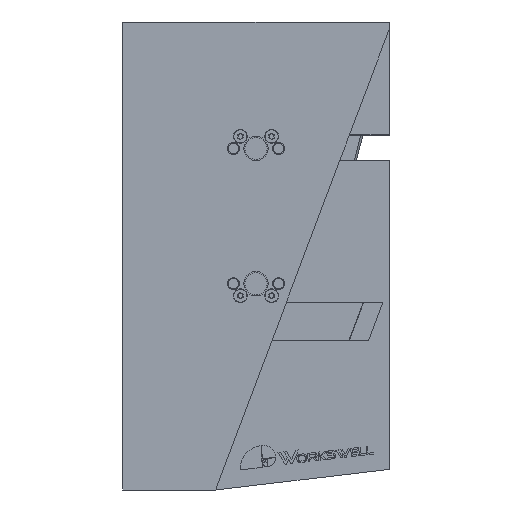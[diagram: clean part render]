
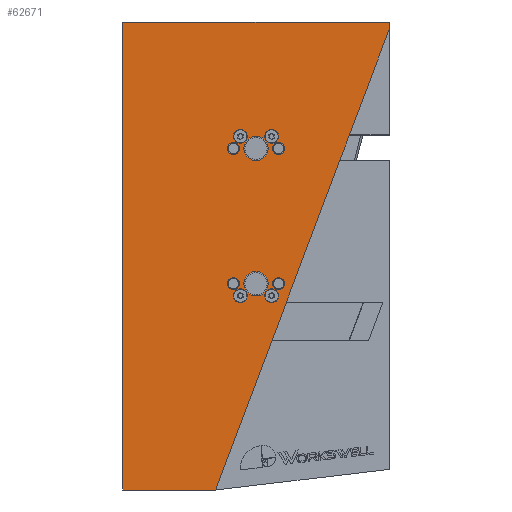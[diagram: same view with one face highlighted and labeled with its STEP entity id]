
A CAD part, top view. The second image highlights one B-rep face of the part: STEP entity #62671.
In plain terms, the highlighted planar face has unit normal (0, 0, 1).
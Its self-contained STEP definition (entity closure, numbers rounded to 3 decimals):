
#3052=CIRCLE('',#66478,2.);
#3053=CIRCLE('',#66479,2.);
#3054=CIRCLE('',#66480,3.5);
#3055=CIRCLE('',#66481,1.7);
#3056=CIRCLE('',#66482,1.7);
#3057=CIRCLE('',#66483,2.);
#3058=CIRCLE('',#66484,3.5);
#3059=CIRCLE('',#66485,1.7);
#3060=CIRCLE('',#66486,1.7);
#3061=CIRCLE('',#66487,2.);
#4442=FACE_BOUND('',#10087,.T.);
#4443=FACE_BOUND('',#10088,.T.);
#4444=FACE_BOUND('',#10089,.T.);
#4445=FACE_BOUND('',#10090,.T.);
#4446=FACE_BOUND('',#10091,.T.);
#4447=FACE_BOUND('',#10092,.T.);
#4448=FACE_BOUND('',#10093,.T.);
#4449=FACE_BOUND('',#10094,.T.);
#4450=FACE_BOUND('',#10095,.T.);
#4451=FACE_BOUND('',#10096,.T.);
#6472=FACE_OUTER_BOUND('',#10086,.T.);
#10086=EDGE_LOOP('',(#46497,#46498,#46499,#46500,#46501,#46502,#46503,#46504,
#46505));
#10087=EDGE_LOOP('',(#46506));
#10088=EDGE_LOOP('',(#46507));
#10089=EDGE_LOOP('',(#46508));
#10090=EDGE_LOOP('',(#46509));
#10091=EDGE_LOOP('',(#46510));
#10092=EDGE_LOOP('',(#46511));
#10093=EDGE_LOOP('',(#46512));
#10094=EDGE_LOOP('',(#46513));
#10095=EDGE_LOOP('',(#46514));
#10096=EDGE_LOOP('',(#46515));
#14875=LINE('',#87750,#21251);
#15850=LINE('',#91469,#22226);
#15851=LINE('',#91471,#22227);
#15852=LINE('',#91473,#22228);
#15853=LINE('',#91475,#22229);
#15854=LINE('',#91477,#22230);
#15855=LINE('',#91479,#22231);
#15856=LINE('',#91481,#22232);
#15857=LINE('',#91482,#22233);
#21251=VECTOR('',#70977,1.95);
#22226=VECTOR('',#73502,32.647);
#22227=VECTOR('',#73503,77.);
#22228=VECTOR('',#73504,135.045);
#22229=VECTOR('',#73505,26.848);
#22230=VECTOR('',#73506,46.213);
#22231=VECTOR('',#73507,11.755);
#22232=VECTOR('',#73508,43.6);
#22233=VECTOR('',#73509,8.015);
#27704=VERTEX_POINT('',#87738);
#27709=VERTEX_POINT('',#87748);
#28702=VERTEX_POINT('',#91468);
#28703=VERTEX_POINT('',#91470);
#28704=VERTEX_POINT('',#91472);
#28705=VERTEX_POINT('',#91474);
#28706=VERTEX_POINT('',#91476);
#28707=VERTEX_POINT('',#91478);
#28708=VERTEX_POINT('',#91480);
#28709=VERTEX_POINT('',#91483);
#28710=VERTEX_POINT('',#91485);
#28711=VERTEX_POINT('',#91487);
#28712=VERTEX_POINT('',#91489);
#28713=VERTEX_POINT('',#91491);
#28714=VERTEX_POINT('',#91493);
#28715=VERTEX_POINT('',#91495);
#28716=VERTEX_POINT('',#91497);
#28717=VERTEX_POINT('',#91499);
#28718=VERTEX_POINT('',#91501);
#34039=EDGE_CURVE('',#27709,#27704,#14875,.T.);
#35440=EDGE_CURVE('',#27704,#28702,#15850,.T.);
#35441=EDGE_CURVE('',#28703,#27709,#15851,.T.);
#35442=EDGE_CURVE('',#28703,#28704,#15852,.T.);
#35443=EDGE_CURVE('',#28704,#28705,#15853,.T.);
#35444=EDGE_CURVE('',#28706,#28705,#15854,.T.);
#35445=EDGE_CURVE('',#28707,#28706,#15855,.T.);
#35446=EDGE_CURVE('',#28708,#28707,#15856,.T.);
#35447=EDGE_CURVE('',#28702,#28708,#15857,.T.);
#35448=EDGE_CURVE('',#28709,#28709,#3052,.T.);
#35449=EDGE_CURVE('',#28710,#28710,#3053,.T.);
#35450=EDGE_CURVE('',#28711,#28711,#3054,.T.);
#35451=EDGE_CURVE('',#28712,#28712,#3055,.T.);
#35452=EDGE_CURVE('',#28713,#28713,#3056,.T.);
#35453=EDGE_CURVE('',#28714,#28714,#3057,.T.);
#35454=EDGE_CURVE('',#28715,#28715,#3058,.T.);
#35455=EDGE_CURVE('',#28716,#28716,#3059,.T.);
#35456=EDGE_CURVE('',#28717,#28717,#3060,.T.);
#35457=EDGE_CURVE('',#28718,#28718,#3061,.T.);
#46497=ORIENTED_EDGE('',*,*,#35440,.F.);
#46498=ORIENTED_EDGE('',*,*,#34039,.F.);
#46499=ORIENTED_EDGE('',*,*,#35441,.F.);
#46500=ORIENTED_EDGE('',*,*,#35442,.T.);
#46501=ORIENTED_EDGE('',*,*,#35443,.T.);
#46502=ORIENTED_EDGE('',*,*,#35444,.F.);
#46503=ORIENTED_EDGE('',*,*,#35445,.F.);
#46504=ORIENTED_EDGE('',*,*,#35446,.F.);
#46505=ORIENTED_EDGE('',*,*,#35447,.F.);
#46506=ORIENTED_EDGE('',*,*,#35448,.F.);
#46507=ORIENTED_EDGE('',*,*,#35449,.F.);
#46508=ORIENTED_EDGE('',*,*,#35450,.T.);
#46509=ORIENTED_EDGE('',*,*,#35451,.T.);
#46510=ORIENTED_EDGE('',*,*,#35452,.T.);
#46511=ORIENTED_EDGE('',*,*,#35453,.F.);
#46512=ORIENTED_EDGE('',*,*,#35454,.T.);
#46513=ORIENTED_EDGE('',*,*,#35455,.T.);
#46514=ORIENTED_EDGE('',*,*,#35456,.T.);
#46515=ORIENTED_EDGE('',*,*,#35457,.F.);
#60015=PLANE('',#66477);
#62671=ADVANCED_FACE('',(#6472,#4442,#4443,#4444,#4445,#4446,#4447,#4448,
#4449,#4450,#4451),#60015,.T.);
#66477=AXIS2_PLACEMENT_3D('',#91467,#73500,#73501);
#66478=AXIS2_PLACEMENT_3D('',#91484,#73510,#73511);
#66479=AXIS2_PLACEMENT_3D('',#91486,#73512,#73513);
#66480=AXIS2_PLACEMENT_3D('',#91488,#73514,#73515);
#66481=AXIS2_PLACEMENT_3D('',#91490,#73516,#73517);
#66482=AXIS2_PLACEMENT_3D('',#91492,#73518,#73519);
#66483=AXIS2_PLACEMENT_3D('',#91494,#73520,#73521);
#66484=AXIS2_PLACEMENT_3D('',#91496,#73522,#73523);
#66485=AXIS2_PLACEMENT_3D('',#91498,#73524,#73525);
#66486=AXIS2_PLACEMENT_3D('',#91500,#73526,#73527);
#66487=AXIS2_PLACEMENT_3D('',#91502,#73528,#73529);
#70977=DIRECTION('',(0.,-1.,0.));
#73500=DIRECTION('center_axis',(0.,0.,1.));
#73501=DIRECTION('ref_axis',(0.,-1.,0.));
#73502=DIRECTION('',(-0.353,-0.936,0.));
#73503=DIRECTION('',(1.,0.,0.));
#73504=DIRECTION('',(0.,-1.,0.));
#73505=DIRECTION('',(1.,0.,0.));
#73506=DIRECTION('',(-0.353,-0.936,0.));
#73507=DIRECTION('',(-0.353,-0.936,0.));
#73508=DIRECTION('',(-0.353,-0.936,0.));
#73509=DIRECTION('',(-0.353,-0.936,0.));
#73510=DIRECTION('center_axis',(0.,0.,1.));
#73511=DIRECTION('ref_axis',(-1.,0.,0.));
#73512=DIRECTION('center_axis',(0.,0.,1.));
#73513=DIRECTION('ref_axis',(-1.,0.,0.));
#73514=DIRECTION('center_axis',(0.,0.,-1.));
#73515=DIRECTION('ref_axis',(-1.,0.,0.));
#73516=DIRECTION('center_axis',(0.,0.,-1.));
#73517=DIRECTION('ref_axis',(-1.,0.,0.));
#73518=DIRECTION('center_axis',(0.,0.,-1.));
#73519=DIRECTION('ref_axis',(-1.,0.,0.));
#73520=DIRECTION('center_axis',(0.,0.,1.));
#73521=DIRECTION('ref_axis',(-1.,0.,0.));
#73522=DIRECTION('center_axis',(0.,0.,-1.));
#73523=DIRECTION('ref_axis',(-1.,0.,0.));
#73524=DIRECTION('center_axis',(0.,0.,-1.));
#73525=DIRECTION('ref_axis',(-1.,0.,0.));
#73526=DIRECTION('center_axis',(0.,0.,-1.));
#73527=DIRECTION('ref_axis',(-1.,0.,0.));
#73528=DIRECTION('center_axis',(0.,0.,1.));
#73529=DIRECTION('ref_axis',(-1.,0.,0.));
#87738=CARTESIAN_POINT('',(77.,109.,0.));
#87748=CARTESIAN_POINT('',(77.,110.95,0.));
#87750=CARTESIAN_POINT('',(77.,108.95,0.));
#91467=CARTESIAN_POINT('Origin',(36.41,107.04,0.));
#91468=CARTESIAN_POINT('',(65.488,78.45,0.));
#91469=CARTESIAN_POINT('',(53.345,46.223,0.));
#91470=CARTESIAN_POINT('',(0.,110.95,0.));
#91471=CARTESIAN_POINT('',(77.,110.95,0.));
#91472=CARTESIAN_POINT('',(0.,-24.095,0.));
#91473=CARTESIAN_POINT('',(0.,109.,0.));
#91474=CARTESIAN_POINT('',(26.848,-24.095,0.));
#91475=CARTESIAN_POINT('',(77.,-24.095,0.));
#91476=CARTESIAN_POINT('',(43.143,19.15,0.));
#91477=CARTESIAN_POINT('',(53.345,46.223,0.));
#91478=CARTESIAN_POINT('',(47.288,30.15,0.));
#91479=CARTESIAN_POINT('',(53.345,46.223,0.));
#91480=CARTESIAN_POINT('',(62.662,70.95,0.));
#91481=CARTESIAN_POINT('',(53.345,46.223,0.));
#91482=CARTESIAN_POINT('',(53.345,46.223,0.));
#91483=CARTESIAN_POINT('',(36.,31.95,0.));
#91484=CARTESIAN_POINT('Origin',(34.,31.95,0.));
#91485=CARTESIAN_POINT('',(36.,77.95,0.));
#91486=CARTESIAN_POINT('Origin',(34.,77.95,0.));
#91487=CARTESIAN_POINT('',(42.,74.45,0.));
#91488=CARTESIAN_POINT('Origin',(38.5,74.45,0.));
#91489=CARTESIAN_POINT('',(46.7,74.45,0.));
#91490=CARTESIAN_POINT('Origin',(45.,74.45,0.));
#91491=CARTESIAN_POINT('',(33.7,74.45,0.));
#91492=CARTESIAN_POINT('Origin',(32.,74.45,0.));
#91493=CARTESIAN_POINT('',(45.,77.95,0.));
#91494=CARTESIAN_POINT('Origin',(43.,77.95,0.));
#91495=CARTESIAN_POINT('',(42.,35.45,0.));
#91496=CARTESIAN_POINT('Origin',(38.5,35.45,0.));
#91497=CARTESIAN_POINT('',(46.7,35.45,0.));
#91498=CARTESIAN_POINT('Origin',(45.,35.45,0.));
#91499=CARTESIAN_POINT('',(33.7,35.45,0.));
#91500=CARTESIAN_POINT('Origin',(32.,35.45,0.));
#91501=CARTESIAN_POINT('',(45.,31.95,0.));
#91502=CARTESIAN_POINT('Origin',(43.,31.95,0.));
